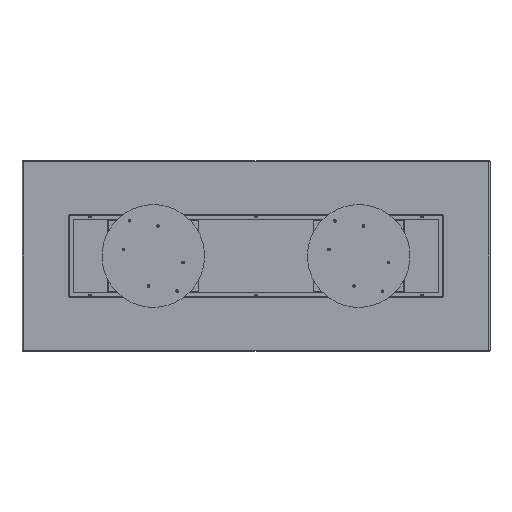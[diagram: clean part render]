
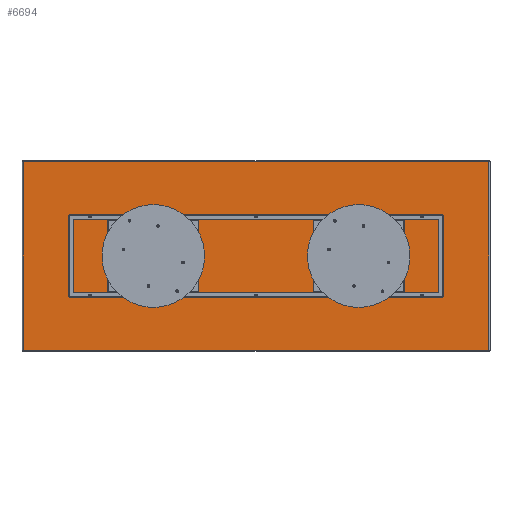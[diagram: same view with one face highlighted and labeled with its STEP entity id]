
A CAD part, front view. The second image highlights one B-rep face of the part: STEP entity #6694.
In plain terms, the highlighted planar face has unit normal (0, -1, 0).
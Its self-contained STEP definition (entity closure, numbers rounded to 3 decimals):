
#172 = LINE ( 'NONE', #378, #14367 ) ;
#203 = DIRECTION ( 'NONE',  ( 0., 0., 1. ) ) ;
#259 = LINE ( 'NONE', #10236, #15527 ) ;
#378 = CARTESIAN_POINT ( 'NONE',  ( 1587., 0., 0. ) ) ;
#1370 = VECTOR ( 'NONE', #17815, 1000. ) ;
#2936 = LINE ( 'NONE', #17539, #14381 ) ;
#3039 = CARTESIAN_POINT ( 'NONE',  ( -1587., 0., -642. ) ) ;
#3248 = CARTESIAN_POINT ( 'NONE',  ( 1587., 0., 642. ) ) ;
#3803 = CARTESIAN_POINT ( 'NONE',  ( -1587., 0., 642. ) ) ;
#4463 = DIRECTION ( 'NONE',  ( 1., 0., 0. ) ) ;
#6119 = EDGE_CURVE ( 'NONE', #10982, #10058, #11116, .T. ) ;
#6457 = ORIENTED_EDGE ( 'NONE', *, *, #6119, .T. ) ;
#6694 = ADVANCED_FACE ( 'NONE', ( #10507 ), #13688, .F. ) ;
#7945 = CARTESIAN_POINT ( 'NONE',  ( -1587., 0., 0. ) ) ;
#8948 = ORIENTED_EDGE ( 'NONE', *, *, #17666, .T. ) ;
#10058 = VERTEX_POINT ( 'NONE', #3039 ) ;
#10059 = VERTEX_POINT ( 'NONE', #3248 ) ;
#10236 = CARTESIAN_POINT ( 'NONE',  ( 0., 0., 642. ) ) ;
#10468 = CARTESIAN_POINT ( 'NONE',  ( 1587., 0., -642. ) ) ;
#10507 = FACE_OUTER_BOUND ( 'NONE', #12070, .T. ) ;
#10604 = DIRECTION ( 'NONE',  ( 0., 1., 0. ) ) ;
#10727 = VERTEX_POINT ( 'NONE', #10468 ) ;
#10982 = VERTEX_POINT ( 'NONE', #3803 ) ;
#11116 = LINE ( 'NONE', #7945, #1370 ) ;
#12070 = EDGE_LOOP ( 'NONE', ( #18011, #16146, #6457, #8948 ) ) ;
#12216 = DIRECTION ( 'NONE',  ( 0., 0., 1. ) ) ;
#12250 = AXIS2_PLACEMENT_3D ( 'NONE', #20571, #10604, #203 ) ;
#13688 = PLANE ( 'NONE',  #12250 ) ;
#14367 = VECTOR ( 'NONE', #12216, 1000. ) ;
#14381 = VECTOR ( 'NONE', #4463, 1000. ) ;
#15527 = VECTOR ( 'NONE', #17156, 1000. ) ;
#16146 = ORIENTED_EDGE ( 'NONE', *, *, #20152, .T. ) ;
#17131 = EDGE_CURVE ( 'NONE', #10727, #10059, #172, .T. ) ;
#17156 = DIRECTION ( 'NONE',  ( -1., 0., 0. ) ) ;
#17539 = CARTESIAN_POINT ( 'NONE',  ( 0., 0., -642. ) ) ;
#17666 = EDGE_CURVE ( 'NONE', #10058, #10727, #2936, .T. ) ;
#17815 = DIRECTION ( 'NONE',  ( 0., 0., -1. ) ) ;
#18011 = ORIENTED_EDGE ( 'NONE', *, *, #17131, .T. ) ;
#20152 = EDGE_CURVE ( 'NONE', #10059, #10982, #259, .T. ) ;
#20571 = CARTESIAN_POINT ( 'NONE',  ( 0., 0., 0. ) ) ;
